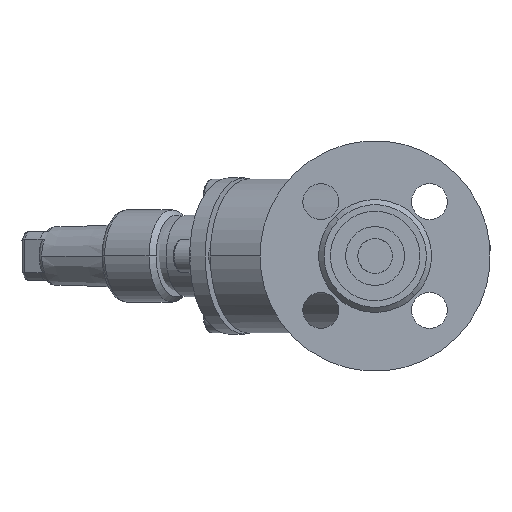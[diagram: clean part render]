
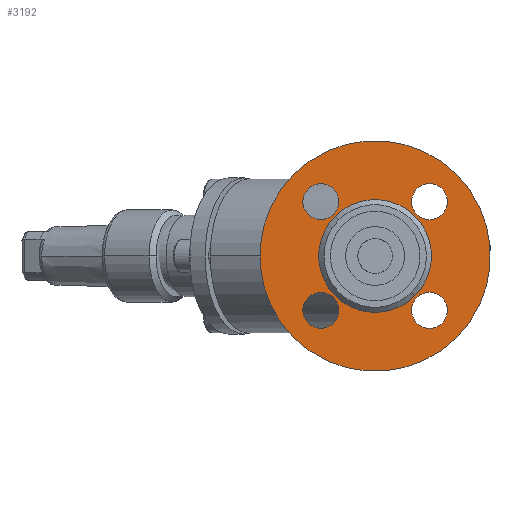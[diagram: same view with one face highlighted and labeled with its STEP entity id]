
A CAD part, left-side view. The second image highlights one B-rep face of the part: STEP entity #3192.
In plain terms, the highlighted planar face has unit normal (-1, 0, 0) as drawn and (0, -1, 0) by its records, which use the part's own axes.
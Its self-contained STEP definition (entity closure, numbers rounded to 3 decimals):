
#235 = CIRCLE ( 'NONE', #236, 7. ) ;
#236 = AXIS2_PLACEMENT_3D ( 'NONE', #237, #238, #239 ) ;
#237 = CARTESIAN_POINT ( 'NONE',  ( 0., 2., -30. ) ) ;
#238 = DIRECTION ( 'NONE',  ( 0., 1., 0. ) ) ;
#239 = DIRECTION ( 'NONE',  ( -1., 0., 0. ) ) ;
#365 = CIRCLE ( 'NONE', #366, 7. ) ;
#366 = AXIS2_PLACEMENT_3D ( 'NONE', #367, #368, #369 ) ;
#367 = CARTESIAN_POINT ( 'NONE',  ( 0., 2., -30. ) ) ;
#368 = DIRECTION ( 'NONE',  ( 0., 1., 0. ) ) ;
#369 = DIRECTION ( 'NONE',  ( -1., 0., 0. ) ) ;
#16984 = ORIENTED_EDGE ( 'NONE', *, *, #3005, .T. ) ;
#17619 = EDGE_CURVE ( 'NONE', #7199, #7413, #21150, .T. ) ;
#17919 = CIRCLE ( 'NONE', #17920, 22. ) ;
#17920 = AXIS2_PLACEMENT_3D ( 'NONE', #17921, #17922, #17923 ) ;
#17921 = CARTESIAN_POINT ( 'NONE',  ( 0., 2., 0. ) ) ;
#17922 = DIRECTION ( 'NONE',  ( 0., 1., 0. ) ) ;
#17923 = DIRECTION ( 'NONE',  ( -1., 0., 0. ) ) ;
#18124 = CIRCLE ( 'NONE', #18125, 7. ) ;
#18125 = AXIS2_PLACEMENT_3D ( 'NONE', #18126, #18127, #18128 ) ;
#18126 = CARTESIAN_POINT ( 'NONE',  ( 30., 2., 0. ) ) ;
#18127 = DIRECTION ( 'NONE',  ( 0., 1., 0. ) ) ;
#18128 = DIRECTION ( 'NONE',  ( -1., 0., 0. ) ) ;
#18241 = ORIENTED_EDGE ( 'NONE', *, *, #17619, .T. ) ;
#18859 = CARTESIAN_POINT ( 'NONE',  ( -7., 2., 30. ) ) ;
#19301 = CARTESIAN_POINT ( 'NONE',  ( 7., 2., 30. ) ) ;
#2988 = EDGE_LOOP ( 'NONE', ( #8694, #6944 ) ) ;
#3005 = EDGE_CURVE ( 'NONE', #7413, #7199, #20527, .T. ) ;
#19486 = CARTESIAN_POINT ( 'NONE',  ( -37., 2., 0. ) ) ;
#3192 = ADVANCED_FACE ( 'NONE', ( #20823, #20824, #20825, #20826, #20827, #20828 ), #20829, .F. ) ;
#3286 = EDGE_LOOP ( 'NONE', ( #16005, #15207 ) ) ;
#19878 = CIRCLE ( 'NONE', #19879, 7. ) ;
#19879 = AXIS2_PLACEMENT_3D ( 'NONE', #19880, #19881, #19882 ) ;
#19880 = CARTESIAN_POINT ( 'NONE',  ( 0., 2., 30. ) ) ;
#19881 = DIRECTION ( 'NONE',  ( 0., 1., 0. ) ) ;
#19882 = DIRECTION ( 'NONE',  ( -1., 0., 0. ) ) ;
#3527 = ORIENTED_EDGE ( 'NONE', *, *, #11889, .T. ) ;
#20155 = CIRCLE ( 'NONE', #20176, 22. ) ;
#20176 = AXIS2_PLACEMENT_3D ( 'NONE', #20177, #20178, #20179 ) ;
#20177 = CARTESIAN_POINT ( 'NONE',  ( 0., 2., 0. ) ) ;
#20178 = DIRECTION ( 'NONE',  ( 0., 1., 0. ) ) ;
#20179 = DIRECTION ( 'NONE',  ( -1., 0., 0. ) ) ;
#4028 = EDGE_CURVE ( 'NONE', #11455, #11675, #6050, .T. ) ;
#20444 = VERTEX_POINT ( 'NONE', #7072 ) ;
#20527 = CIRCLE ( 'NONE', #20547, 7. ) ;
#20547 = AXIS2_PLACEMENT_3D ( 'NONE', #20548, #20549, #20550 ) ;
#20548 = CARTESIAN_POINT ( 'NONE',  ( -30., 2., 0. ) ) ;
#20549 = DIRECTION ( 'NONE',  ( 0., 1., 0. ) ) ;
#20550 = DIRECTION ( 'NONE',  ( -1., 0., 0. ) ) ;
#4392 = ORIENTED_EDGE ( 'NONE', *, *, #4028, .T. ) ;
#20823 = FACE_BOUND ( 'NONE', #2988, .T. ) ;
#20824 = FACE_BOUND ( 'NONE', #6712, .T. ) ;
#20825 = FACE_BOUND ( 'NONE', #4900, .T. ) ;
#20826 = FACE_BOUND ( 'NONE', #3286, .T. ) ;
#20827 = FACE_OUTER_BOUND ( 'NONE', #14971, .T. ) ;
#20828 = FACE_BOUND ( 'NONE', #13646, .T. ) ;
#20829 = PLANE ( 'NONE',  #20830 ) ;
#20830 = AXIS2_PLACEMENT_3D ( 'NONE', #20831, #20832, #20833 ) ;
#20831 = CARTESIAN_POINT ( 'NONE',  ( 22., 2., 0. ) ) ;
#20832 = DIRECTION ( 'NONE',  ( 0., 1., 0. ) ) ;
#20833 = DIRECTION ( 'NONE',  ( -1., 0., 0. ) ) ;
#21042 = CARTESIAN_POINT ( 'NONE',  ( -23., 2., 0. ) ) ;
#21150 = CIRCLE ( 'NONE', #21151, 7. ) ;
#21151 = AXIS2_PLACEMENT_3D ( 'NONE', #21152, #21153, #21154 ) ;
#21152 = CARTESIAN_POINT ( 'NONE',  ( -30., 2., 0. ) ) ;
#21153 = DIRECTION ( 'NONE',  ( 0., 1., 0. ) ) ;
#21154 = DIRECTION ( 'NONE',  ( -1., 0., 0. ) ) ;
#4900 = EDGE_LOOP ( 'NONE', ( #4392, #3527 ) ) ;
#21352 = CARTESIAN_POINT ( 'NONE',  ( -7., 2., -30. ) ) ;
#21592 = CARTESIAN_POINT ( 'NONE',  ( 7., 2., -30. ) ) ;
#5333 = VERTEX_POINT ( 'NONE', #15807 ) ;
#5549 = VERTEX_POINT ( 'NONE', #15898 ) ;
#5551 = CARTESIAN_POINT ( 'NONE',  ( 22., 2., 0. ) ) ;
#5756 = EDGE_CURVE ( 'NONE', #5333, #5549, #16088, .T. ) ;
#5773 = EDGE_CURVE ( 'NONE', #5549, #5333, #16093, .T. ) ;
#6050 = CIRCLE ( 'NONE', #6051, 7. ) ;
#6051 = AXIS2_PLACEMENT_3D ( 'NONE', #6052, #6053, #6054 ) ;
#6052 = CARTESIAN_POINT ( 'NONE',  ( 0., 2., 30. ) ) ;
#6053 = DIRECTION ( 'NONE',  ( 0., 1., 0. ) ) ;
#6054 = DIRECTION ( 'NONE',  ( -1., 0., 0. ) ) ;
#6297 = EDGE_CURVE ( 'NONE', #13053, #20444, #17919, .T. ) ;
#6712 = EDGE_LOOP ( 'NONE', ( #18241, #16984 ) ) ;
#6944 = ORIENTED_EDGE ( 'NONE', *, *, #8149, .T. ) ;
#7072 = CARTESIAN_POINT ( 'NONE',  ( -22., 2., 0. ) ) ;
#7199 = VERTEX_POINT ( 'NONE', #19486 ) ;
#7413 = VERTEX_POINT ( 'NONE', #21042 ) ;
#7712 = VERTEX_POINT ( 'NONE', #21352 ) ;
#7931 = VERTEX_POINT ( 'NONE', #21592 ) ;
#8149 = EDGE_CURVE ( 'NONE', #7931, #7712, #235, .T. ) ;
#8327 = EDGE_CURVE ( 'NONE', #7712, #7931, #365, .T. ) ;
#8694 = ORIENTED_EDGE ( 'NONE', *, *, #8327, .T. ) ;
#11455 = VERTEX_POINT ( 'NONE', #18859 ) ;
#11675 = VERTEX_POINT ( 'NONE', #19301 ) ;
#11889 = EDGE_CURVE ( 'NONE', #11675, #11455, #19878, .T. ) ;
#12022 = EDGE_CURVE ( 'NONE', #20444, #13053, #20155, .T. ) ;
#12625 = ORIENTED_EDGE ( 'NONE', *, *, #6297, .T. ) ;
#13053 = VERTEX_POINT ( 'NONE', #5551 ) ;
#13130 = ORIENTED_EDGE ( 'NONE', *, *, #12022, .T. ) ;
#13646 = EDGE_LOOP ( 'NONE', ( #13130, #12625 ) ) ;
#13885 = ORIENTED_EDGE ( 'NONE', *, *, #5756, .F. ) ;
#14400 = ORIENTED_EDGE ( 'NONE', *, *, #5773, .F. ) ;
#14490 = VERTEX_POINT ( 'NONE', #15239 ) ;
#14710 = VERTEX_POINT ( 'NONE', #15834 ) ;
#14935 = EDGE_CURVE ( 'NONE', #14710, #14490, #15991, .T. ) ;
#14971 = EDGE_LOOP ( 'NONE', ( #14400, #13885 ) ) ;
#15207 = ORIENTED_EDGE ( 'NONE', *, *, #14935, .T. ) ;
#15239 = CARTESIAN_POINT ( 'NONE',  ( 23., 2., 0. ) ) ;
#15715 = EDGE_CURVE ( 'NONE', #14490, #14710, #18124, .T. ) ;
#15807 = CARTESIAN_POINT ( 'NONE',  ( 45., 2., 0. ) ) ;
#15834 = CARTESIAN_POINT ( 'NONE',  ( 37., 2., 0. ) ) ;
#15898 = CARTESIAN_POINT ( 'NONE',  ( -45., 2., 0. ) ) ;
#15991 = CIRCLE ( 'NONE', #15992, 7. ) ;
#15992 = AXIS2_PLACEMENT_3D ( 'NONE', #15993, #15994, #15995 ) ;
#15993 = CARTESIAN_POINT ( 'NONE',  ( 30., 2., 0. ) ) ;
#15994 = DIRECTION ( 'NONE',  ( 0., 1., 0. ) ) ;
#15995 = DIRECTION ( 'NONE',  ( -1., 0., 0. ) ) ;
#16005 = ORIENTED_EDGE ( 'NONE', *, *, #15715, .T. ) ;
#16088 = CIRCLE ( 'NONE', #16089, 45. ) ;
#16089 = AXIS2_PLACEMENT_3D ( 'NONE', #16090, #16091, #16092 ) ;
#16090 = CARTESIAN_POINT ( 'NONE',  ( 0., 2., 0. ) ) ;
#16091 = DIRECTION ( 'NONE',  ( 0., 1., 0. ) ) ;
#16092 = DIRECTION ( 'NONE',  ( -1., 0., 0. ) ) ;
#16093 = CIRCLE ( 'NONE', #16097, 45. ) ;
#16097 = AXIS2_PLACEMENT_3D ( 'NONE', #16098, #16099, #16100 ) ;
#16098 = CARTESIAN_POINT ( 'NONE',  ( 0., 2., 0. ) ) ;
#16099 = DIRECTION ( 'NONE',  ( 0., 1., 0. ) ) ;
#16100 = DIRECTION ( 'NONE',  ( -1., 0., 0. ) ) ;
